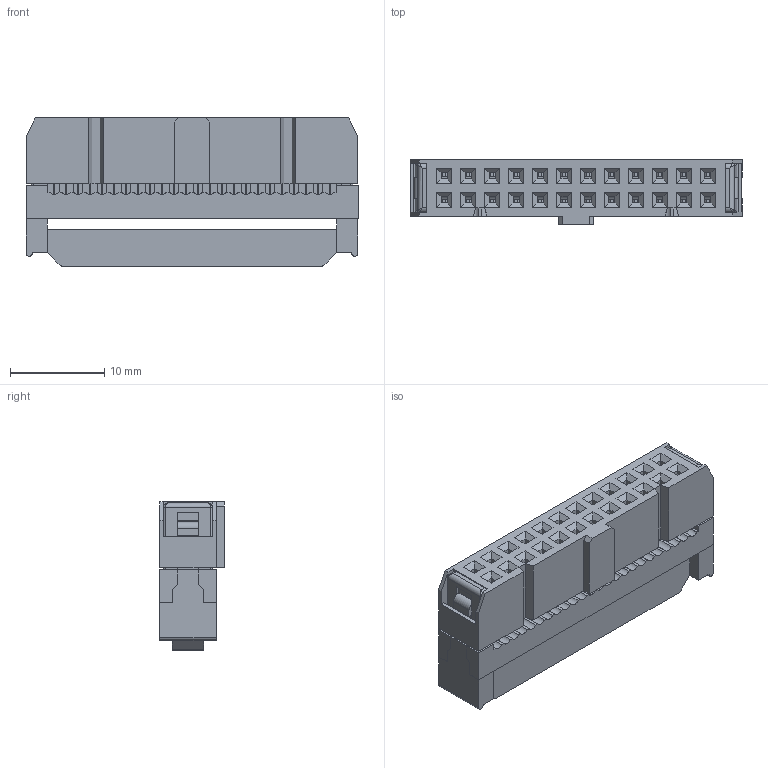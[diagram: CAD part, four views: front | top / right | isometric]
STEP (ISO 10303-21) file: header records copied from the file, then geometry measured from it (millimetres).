
FILE_DESCRIPTION(('FreeCAD Model'),'2;1');
FILE_NAME('C:/Users/Metaltex-99/Desktop/L-24.stp','2020-12-09T08:24:52', ('Engenharia Metaltex'),('Metaltex'),'Open CASCADE STEP processor 7.3' ,'FreeCAD','Unknown');
FILE_SCHEMA(('AUTOMOTIVE_DESIGN { 1 0 10303 214 1 1 1 1 }'));
Length unit declared in the file: millimetre
Products named in the file (4): L-24; 2; 3; 1
Assembly tree (3 placements, depth 2):
  L-24
    2
    3
    1
Bounding box: 35.16 x 6.86 x 15.7 mm (x, y, z)
Volume: 1135.3 mm3; surface area: 4491.4 mm2
Topology: 2 solids, 27 shells, 1477 faces, 4057 edges, 2628 vertices
Faces by surface type: plane 1124, cylinder 330, extrusion 11, sphere 4, torus 4, bspline 4
Entity records: 100946 total; most frequent: CARTESIAN_POINT 18691, DIRECTION 15455, VECTOR 10593, LINE 10582, ORIENTED_EDGE 8106, PCURVE 8106, DEFINITIONAL_REPRESENTATION 8106, EDGE_CURVE 4053
